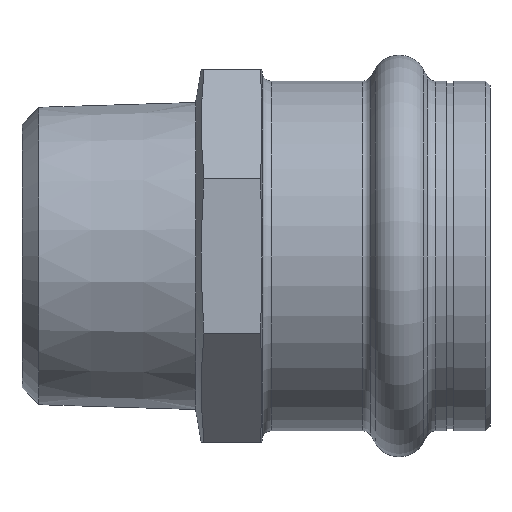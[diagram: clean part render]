
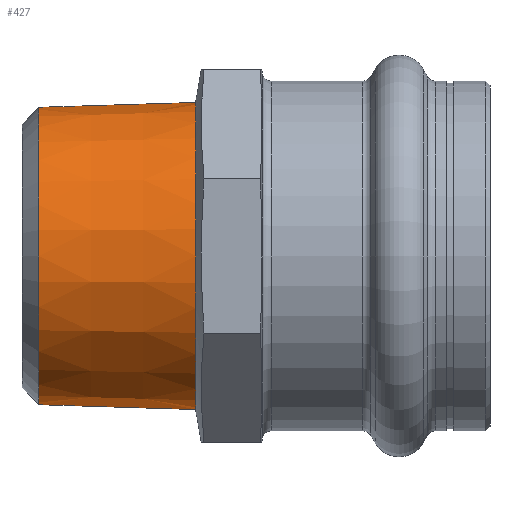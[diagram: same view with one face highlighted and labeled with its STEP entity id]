
A CAD part, left-side view. The second image highlights one B-rep face of the part: STEP entity #427.
In plain terms, the highlighted conical face has half-angle 1.78 degrees and reference radius 16.895 mm.
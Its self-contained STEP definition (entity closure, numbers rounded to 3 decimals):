
#45 = CARTESIAN_POINT ( 'NONE',  ( 0., 32.4, -16.895 ) ) ;
#54 = CARTESIAN_POINT ( 'NONE',  ( 0., 49.641, -16.359 ) ) ;
#81 = CARTESIAN_POINT ( 'NONE',  ( 0., 32.4, 0. ) ) ;
#88 = DIRECTION ( 'NONE',  ( 0., -1., 0. ) ) ;
#94 = DIRECTION ( 'NONE',  ( 0., 0., -1. ) ) ;
#144 = DIRECTION ( 'NONE',  ( 0., -1., 0. ) ) ;
#216 = EDGE_CURVE ( 'NONE', #483, #1277, #269, .T. ) ;
#229 = CARTESIAN_POINT ( 'NONE',  ( 0., 32.4, -16.895 ) ) ;
#267 = LINE ( 'NONE', #229, #1333 ) ;
#269 = CIRCLE ( 'NONE', #1291, 16.359 ) ;
#284 = EDGE_LOOP ( 'NONE', ( #1216, #1267, #593, #945 ) ) ;
#335 = DIRECTION ( 'NONE',  ( 0., 0., -1. ) ) ;
#360 = DIRECTION ( 'NONE',  ( 0., -1., -0.031 ) ) ;
#427 = ADVANCED_FACE ( 'NONE', ( #1068 ), #663, .T. ) ;
#470 = EDGE_CURVE ( 'NONE', #483, #1416, #1693, .T. ) ;
#483 = VERTEX_POINT ( 'NONE', #1175 ) ;
#593 = ORIENTED_EDGE ( 'NONE', *, *, #1391, .T. ) ;
#659 = CARTESIAN_POINT ( 'NONE',  ( 0., 32.4, 16.895 ) ) ;
#663 = CONICAL_SURFACE ( 'NONE', #1258, 16.895, 0.031 ) ;
#752 = DIRECTION ( 'NONE',  ( 0., 0., -1. ) ) ;
#790 = CARTESIAN_POINT ( 'NONE',  ( 0., 49.641, 0. ) ) ;
#804 = DIRECTION ( 'NONE',  ( 0., -1., 0. ) ) ;
#885 = AXIS2_PLACEMENT_3D ( 'NONE', #81, #88, #94 ) ;
#945 = ORIENTED_EDGE ( 'NONE', *, *, #1322, .F. ) ;
#971 = CARTESIAN_POINT ( 'NONE',  ( 0., 32.4, 0. ) ) ;
#1028 = VERTEX_POINT ( 'NONE', #45 ) ;
#1068 = FACE_OUTER_BOUND ( 'NONE', #284, .T. ) ;
#1157 = CARTESIAN_POINT ( 'NONE',  ( 0., 32.4, 16.895 ) ) ;
#1167 = DIRECTION ( 'NONE',  ( 0., -1., 0.031 ) ) ;
#1175 = CARTESIAN_POINT ( 'NONE',  ( 0., 49.641, 16.359 ) ) ;
#1216 = ORIENTED_EDGE ( 'NONE', *, *, #470, .F. ) ;
#1258 = AXIS2_PLACEMENT_3D ( 'NONE', #971, #804, #752 ) ;
#1267 = ORIENTED_EDGE ( 'NONE', *, *, #216, .T. ) ;
#1277 = VERTEX_POINT ( 'NONE', #54 ) ;
#1291 = AXIS2_PLACEMENT_3D ( 'NONE', #790, #144, #335 ) ;
#1322 = EDGE_CURVE ( 'NONE', #1416, #1028, #1422, .T. ) ;
#1333 = VECTOR ( 'NONE', #360, 1000. ) ;
#1391 = EDGE_CURVE ( 'NONE', #1277, #1028, #267, .T. ) ;
#1416 = VERTEX_POINT ( 'NONE', #659 ) ;
#1422 = CIRCLE ( 'NONE', #885, 16.895 ) ;
#1663 = VECTOR ( 'NONE', #1167, 1000. ) ;
#1693 = LINE ( 'NONE', #1157, #1663 ) ;
